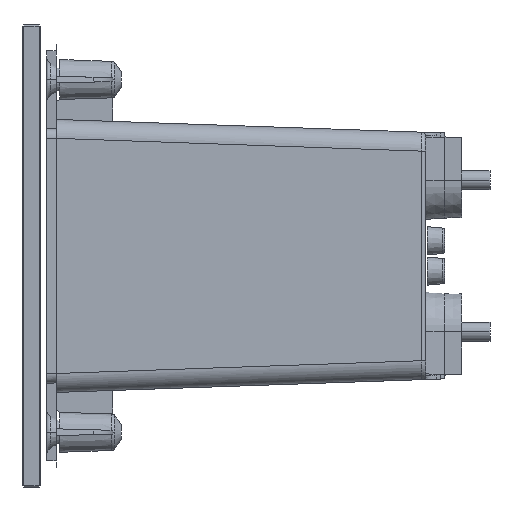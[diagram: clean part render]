
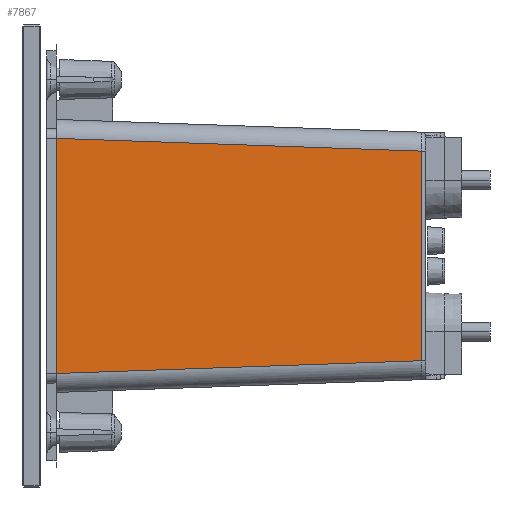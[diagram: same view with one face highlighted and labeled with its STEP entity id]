
A CAD part, left-side view. The second image highlights one B-rep face of the part: STEP entity #7867.
In plain terms, the highlighted planar face has unit normal (-0.999, -0.035, 0).
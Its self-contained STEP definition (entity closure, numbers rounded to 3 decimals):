
#124=DIRECTION('',(0.,0.,1.));
#125=VECTOR('',#124,55.309);
#126=CARTESIAN_POINT('',(-116.151,-84.035,
-27.654));
#127=LINE('',#126,#125);
#128=DIRECTION('',(0.035,-0.999,0.035));
#129=VECTOR('',#128,96.653);
#130=CARTESIAN_POINT('',(-119.522,12.5,-31.025));
#131=LINE('',#130,#129);
#132=DIRECTION('',(0.,0.,1.));
#133=VECTOR('',#132,62.051);
#134=CARTESIAN_POINT('',(-119.522,12.5,-31.025));
#135=LINE('',#134,#133);
#136=DIRECTION('',(0.035,-0.999,-0.035));
#137=VECTOR('',#136,96.653);
#138=CARTESIAN_POINT('',(-119.522,12.5,31.025));
#139=LINE('',#138,#137);
#1669=CARTESIAN_POINT('',(-116.151,-84.035,
27.654));
#6628=CARTESIAN_POINT('',(-119.522,12.5,-31.025));
#6629=CARTESIAN_POINT('',(-119.522,12.5,31.025));
#6630=VERTEX_POINT('',#6628);
#6631=VERTEX_POINT('',#6629);
#6689=VERTEX_POINT('',#1669);
#6693=CARTESIAN_POINT('',(-116.151,-84.035,
-27.654));
#6694=VERTEX_POINT('',#6693);
#7852=CARTESIAN_POINT('',(-119.522,12.5,-37.142));
#7853=DIRECTION('',(-0.999,-0.035,0.));
#7854=DIRECTION('',(0.,0.,1.));
#7855=AXIS2_PLACEMENT_3D('',#7852,#7853,#7854);
#7856=PLANE('',#7855);
#7858=ORIENTED_EDGE('',*,*,#7857,.F.);
#7860=ORIENTED_EDGE('',*,*,#7859,.F.);
#7862=ORIENTED_EDGE('',*,*,#7861,.T.);
#7864=ORIENTED_EDGE('',*,*,#7863,.T.);
#7865=EDGE_LOOP('',(#7858,#7860,#7862,#7864));
#7866=FACE_OUTER_BOUND('',#7865,.F.);
#7867=ADVANCED_FACE('',(#7866),#7856,.T.);
#7857=EDGE_CURVE('',#6694,#6689,#127,.T.);
#7859=EDGE_CURVE('',#6630,#6694,#131,.T.);
#7861=EDGE_CURVE('',#6630,#6631,#135,.T.);
#7863=EDGE_CURVE('',#6631,#6689,#139,.T.);
